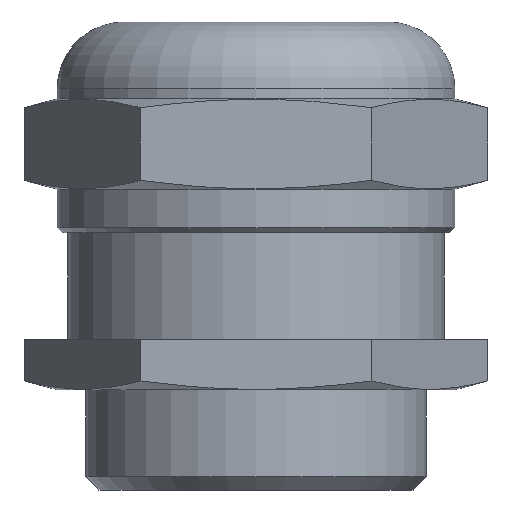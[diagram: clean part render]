
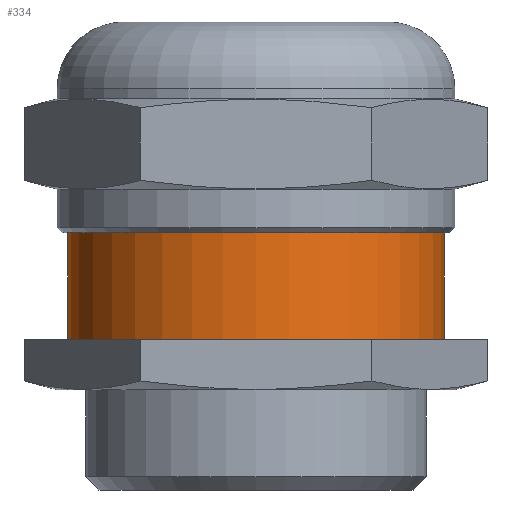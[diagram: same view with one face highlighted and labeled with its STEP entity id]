
A CAD part, left-side view. The second image highlights one B-rep face of the part: STEP entity #334.
In plain terms, the highlighted cylindrical face has radius 11.25 mm (diameter 22.5 mm), a partial arc.
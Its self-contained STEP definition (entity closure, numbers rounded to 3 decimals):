
#260 = VERTEX_POINT ( 'NONE', #1568 ) ;
#262 = EDGE_CURVE ( 'NONE', #279, #260, #1567, .T. ) ;
#272 = EDGE_CURVE ( 'NONE', #280, #273, #1358, .T. ) ;
#273 = VERTEX_POINT ( 'NONE', #1354 ) ;
#279 = VERTEX_POINT ( 'NONE', #1342 ) ;
#280 = VERTEX_POINT ( 'NONE', #1341 ) ;
#312 = EDGE_LOOP ( 'NONE', ( #335, #336, #326, #327 ) ) ;
#326 = ORIENTED_EDGE ( 'NONE', *, *, #262, .T. ) ;
#327 = ORIENTED_EDGE ( 'NONE', *, *, #328, .F. ) ;
#328 = EDGE_CURVE ( 'NONE', #273, #260, #1502, .T. ) ;
#333 = EDGE_CURVE ( 'NONE', #280, #279, #1556, .T. ) ;
#334 = ADVANCED_FACE ( 'NONE', ( #1551 ), #1550, .T. ) ;
#335 = ORIENTED_EDGE ( 'NONE', *, *, #272, .F. ) ;
#336 = ORIENTED_EDGE ( 'NONE', *, *, #333, .T. ) ;
#1341 = CARTESIAN_POINT ( 'NONE',  ( 0., -11.25, 15.4 ) ) ;
#1342 = CARTESIAN_POINT ( 'NONE',  ( 0., 11.25, 15.4 ) ) ;
#1354 = CARTESIAN_POINT ( 'NONE',  ( 0., -11.25, 9. ) ) ;
#1355 = DIRECTION ( 'NONE',  ( 0., 0., -1. ) ) ;
#1356 = VECTOR ( 'NONE', #1355, 1000. ) ;
#1357 = CARTESIAN_POINT ( 'NONE',  ( 0., -11.25, 0. ) ) ;
#1358 = LINE ( 'NONE', #1357, #1356 ) ;
#1498 = DIRECTION ( 'NONE',  ( 0., 1., 0. ) ) ;
#1499 = DIRECTION ( 'NONE',  ( 0., 0., -1. ) ) ;
#1500 = CARTESIAN_POINT ( 'NONE',  ( 0., 0., 9. ) ) ;
#1501 = AXIS2_PLACEMENT_3D ( 'NONE', #1500, #1499, #1498 ) ;
#1502 = CIRCLE ( 'NONE', #1501, 11.25 ) ;
#1545 = DIRECTION ( 'NONE',  ( 0., 1., 0. ) ) ;
#1546 = DIRECTION ( 'NONE',  ( 0., 0., -1. ) ) ;
#1547 = CARTESIAN_POINT ( 'NONE',  ( 0., 0., 0. ) ) ;
#1548 = AXIS2_PLACEMENT_3D ( 'NONE', #1547, #1546, #1545 ) ;
#1550 = CYLINDRICAL_SURFACE ( 'NONE', #1548, 11.25 ) ;
#1551 = FACE_OUTER_BOUND ( 'NONE', #312, .T. ) ;
#1552 = DIRECTION ( 'NONE',  ( 0., 1., 0. ) ) ;
#1553 = DIRECTION ( 'NONE',  ( 0., 0., -1. ) ) ;
#1554 = CARTESIAN_POINT ( 'NONE',  ( 0., 0., 15.4 ) ) ;
#1555 = AXIS2_PLACEMENT_3D ( 'NONE', #1554, #1553, #1552 ) ;
#1556 = CIRCLE ( 'NONE', #1555, 11.25 ) ;
#1564 = DIRECTION ( 'NONE',  ( 0., 0., -1. ) ) ;
#1565 = VECTOR ( 'NONE', #1564, 1000. ) ;
#1566 = CARTESIAN_POINT ( 'NONE',  ( 0., 11.25, 0. ) ) ;
#1567 = LINE ( 'NONE', #1566, #1565 ) ;
#1568 = CARTESIAN_POINT ( 'NONE',  ( 0., 11.25, 9. ) ) ;
